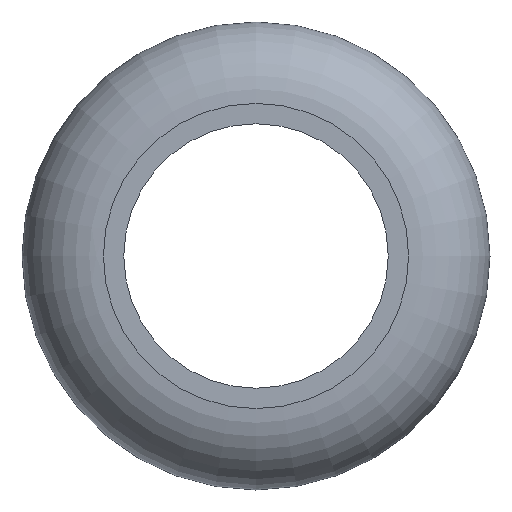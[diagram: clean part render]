
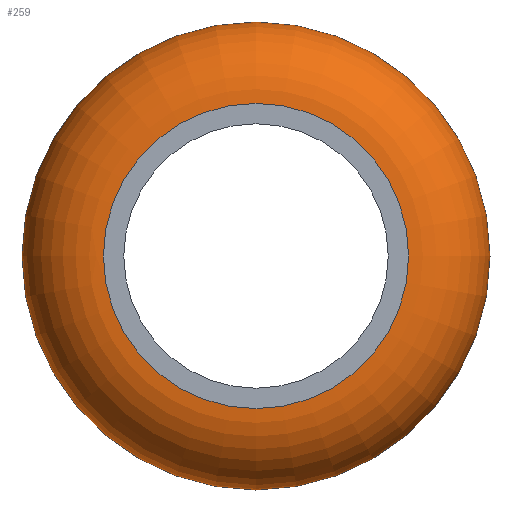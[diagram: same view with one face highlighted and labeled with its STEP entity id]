
A CAD part, front view. The second image highlights one B-rep face of the part: STEP entity #259.
In plain terms, the highlighted toroidal (fillet/blend) face has major radius 7.5 mm and minor radius 4 mm.
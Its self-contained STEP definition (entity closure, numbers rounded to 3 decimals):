
#105=TOROIDAL_SURFACE('',#245,7.5,4.);
#116=ORIENTED_EDGE('',*,*,#144,.T.);
#117=ORIENTED_EDGE('',*,*,#143,.F.);
#127=CIRCLE('',#244,7.5);
#128=CIRCLE('',#246,11.5);
#135=VERTEX_POINT('',#225);
#136=VERTEX_POINT('',#228);
#143=EDGE_CURVE('',#135,#135,#127,.T.);
#144=EDGE_CURVE('',#136,#136,#128,.T.);
#156=EDGE_LOOP('',(#116));
#157=EDGE_LOOP('',(#117));
#172=FACE_BOUND('',#156,.T.);
#173=FACE_BOUND('',#157,.T.);
#198=DIRECTION('',(0.,-1.,0.));
#199=DIRECTION('',(0.,0.,-7.5));
#200=DIRECTION('',(0.,-1.,0.));
#201=DIRECTION('',(0.,0.,-1.));
#202=DIRECTION('',(0.,-1.,0.));
#203=DIRECTION('',(0.,0.,-11.5));
#225=CARTESIAN_POINT('',(41.169,57.038,0.));
#226=CARTESIAN_POINT('',(48.669,57.038,0.));
#227=CARTESIAN_POINT('',(48.669,61.038,0.));
#228=CARTESIAN_POINT('',(37.169,61.038,0.));
#229=CARTESIAN_POINT('',(48.669,61.038,0.));
#244=AXIS2_PLACEMENT_3D('',#226,#198,#199);
#245=AXIS2_PLACEMENT_3D('',#227,#200,#201);
#246=AXIS2_PLACEMENT_3D('',#229,#202,#203);
#259=ADVANCED_FACE('',(#172,#173),#105,.T.);
